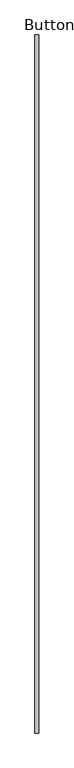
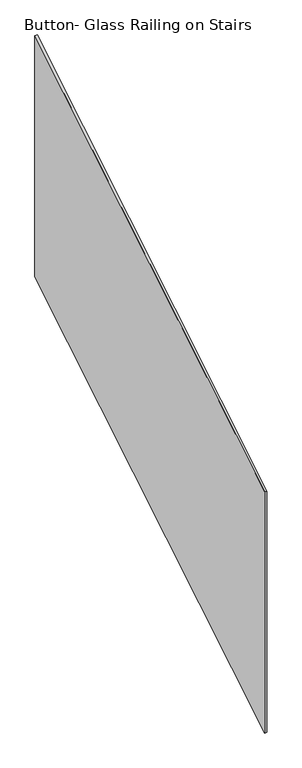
"""IFC4 building model written with IfcOpenShell, lengths in millimetres: railing geometry, Button- Glass Railing on Stairs."""

from ifc_helpers import new_model, si_unit, frame, origin, place, context, project, spatial, polyline, outline, extrude, source, transform, mapped, element, save


def button_glass_railing_on_stairs_7fb2a7b6(model_context):
    return source(origin(), model_context, "Body", "SweptSolid", [
        extrude(outline(polyline([(2181.6994253, -199.3490475), (2181.6994253, 1241.1363636), (4429.5994253, 2603.5), (4429.5994253, 1163.0145889), (2181.6994253, -199.3490475)])), frame((4679.609387, 0.0, 0.0), z_axis=(1.0, 0.0, 0.0), x_axis=(0.0, 1.0, 0.0)), (0.0, 0.0, 1.0), 12.7),
    ])


if __name__ == "__main__":
    model = new_model("IFC4")
    model_context = context("Model", 3, world=origin())
    ifc_project = project(units=[si_unit("LENGTHUNIT", "METRE", prefix="MILLI")], contexts=[model_context])
    site = spatial("IfcSite", under=ifc_project)
    building = spatial("IfcBuilding", under=site)
    placement = place(None, origin())
    button_glass_railing_on_stairs_shape = button_glass_railing_on_stairs_7fb2a7b6(model_context)
    element("IfcRailing", 1, ObjectType="Button- Glass Railing on Stairs", at=placement, inside=building, context=model_context, shape_type="MappedRepresentation", body=[
        mapped(button_glass_railing_on_stairs_shape, transform((0.0, 0.0, 0.0), x_axis=(1.0, 0.0, 0.0), y_axis=(0.0, 1.0, 0.0), z_axis=(0.0, 0.0, 1.0))),
    ])
    save(model, "model.ifc")
